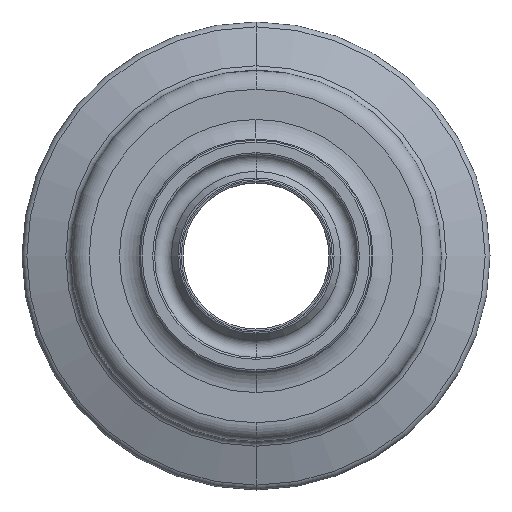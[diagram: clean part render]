
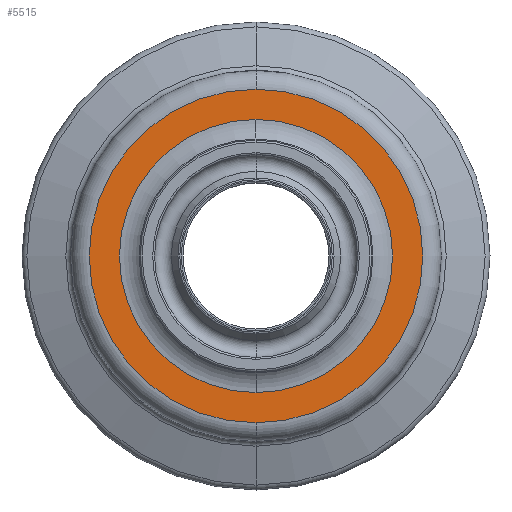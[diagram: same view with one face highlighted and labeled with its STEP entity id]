
A CAD part, front view. The second image highlights one B-rep face of the part: STEP entity #5515.
In plain terms, the highlighted planar face has unit normal (0, -1, 0).
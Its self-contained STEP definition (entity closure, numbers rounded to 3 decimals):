
#2085=CARTESIAN_POINT('',(0.,-13.761,0.));
#2086=DIRECTION('',(0.,1.,0.));
#2087=DIRECTION('',(0.,0.,-1.));
#2088=AXIS2_PLACEMENT_3D('',#2085,#2086,#2087);
#2090=CARTESIAN_POINT('',(0.,-13.761,0.));
#2091=DIRECTION('',(0.,1.,0.));
#2092=DIRECTION('',(0.,0.,1.));
#2093=AXIS2_PLACEMENT_3D('',#2090,#2091,#2092);
#2095=CARTESIAN_POINT('',(0.,-13.761,0.));
#2096=DIRECTION('',(0.,-1.,0.));
#2097=DIRECTION('',(0.,0.,1.));
#2098=AXIS2_PLACEMENT_3D('',#2095,#2096,#2097);
#2100=CARTESIAN_POINT('',(0.,-13.761,0.));
#2101=DIRECTION('',(0.,-1.,0.));
#2102=DIRECTION('',(0.,0.,-1.));
#2103=AXIS2_PLACEMENT_3D('',#2100,#2101,#2102);
#2860=CARTESIAN_POINT('',(0.,-13.761,-14.743));
#2861=CARTESIAN_POINT('',(0.,-13.761,14.743));
#2862=VERTEX_POINT('',#2860);
#2863=VERTEX_POINT('',#2861);
#2864=CARTESIAN_POINT('',(0.,-13.761,18.));
#2865=CARTESIAN_POINT('',(0.,-13.761,-18.));
#2866=VERTEX_POINT('',#2864);
#2867=VERTEX_POINT('',#2865);
#5499=CARTESIAN_POINT('',(0.,-13.761,0.));
#5500=DIRECTION('',(0.,1.,0.));
#5501=DIRECTION('',(0.,0.,-1.));
#5502=AXIS2_PLACEMENT_3D('',#5499,#5500,#5501);
#5503=PLANE('',#5502);
#5504=ORIENTED_EDGE('',*,*,#5489,.F.);
#5506=ORIENTED_EDGE('',*,*,#5505,.F.);
#5507=EDGE_LOOP('',(#5504,#5506));
#5508=FACE_OUTER_BOUND('',#5507,.F.);
#5510=ORIENTED_EDGE('',*,*,#5509,.F.);
#5512=ORIENTED_EDGE('',*,*,#5511,.F.);
#5513=EDGE_LOOP('',(#5510,#5512));
#5514=FACE_BOUND('',#5513,.F.);
#5515=ADVANCED_FACE('',(#5508,#5514),#5503,.F.);
#2089=CIRCLE('',#2088,14.743);
#2094=CIRCLE('',#2093,14.743);
#2099=CIRCLE('',#2098,18.);
#2104=CIRCLE('',#2103,18.);
#5489=EDGE_CURVE('',#2866,#2867,#2099,.T.);
#5505=EDGE_CURVE('',#2867,#2866,#2104,.T.);
#5509=EDGE_CURVE('',#2862,#2863,#2089,.T.);
#5511=EDGE_CURVE('',#2863,#2862,#2094,.T.);
